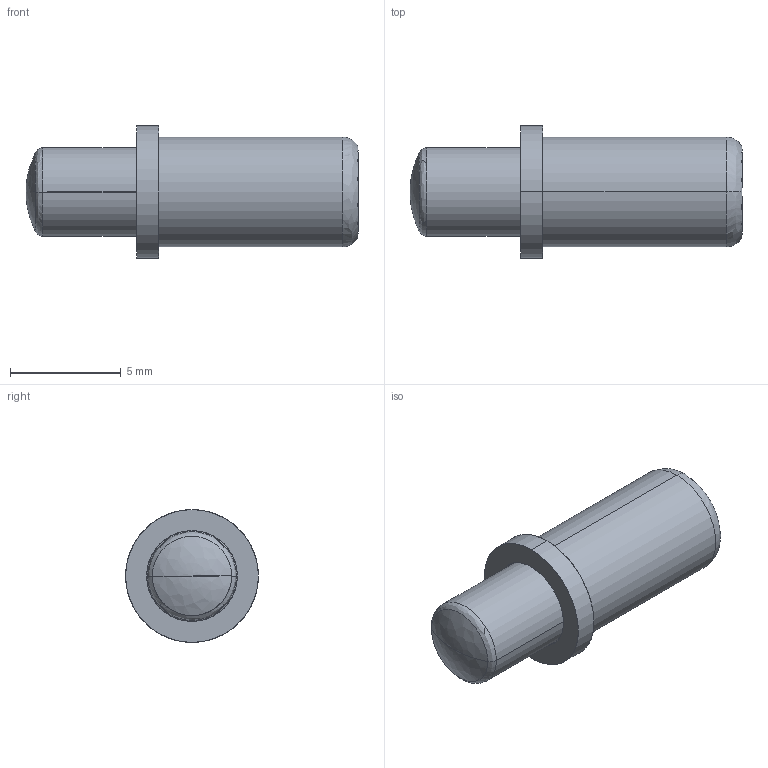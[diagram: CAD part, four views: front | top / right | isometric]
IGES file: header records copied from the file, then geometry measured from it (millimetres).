
Start section: SolidWorks IGES file using analytic representation for surfaces
Global section: file name: Y:\probe solid model mockups\Solidworks models\IGES Files\BIP-10 IGES files\BIP-10.IGS; native system: SolidWorks 2015; preprocessor: SolidWorks 2015; author: adalager; date: 160920.094752; units: inch
Bounding box: 15 x 6 x 6 mm (x, y, z)
Surface area: 299 mm2 (no closed solid volume)
Topology: 0 solids, 0 shells, 29 faces, 296 edges, 294 vertices
Faces by surface type: revolution 20, bspline 9
